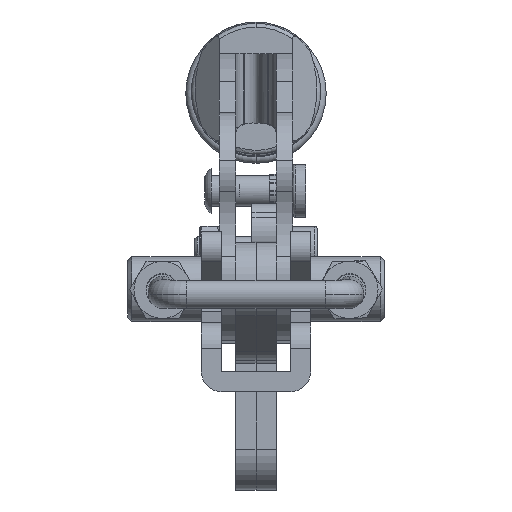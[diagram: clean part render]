
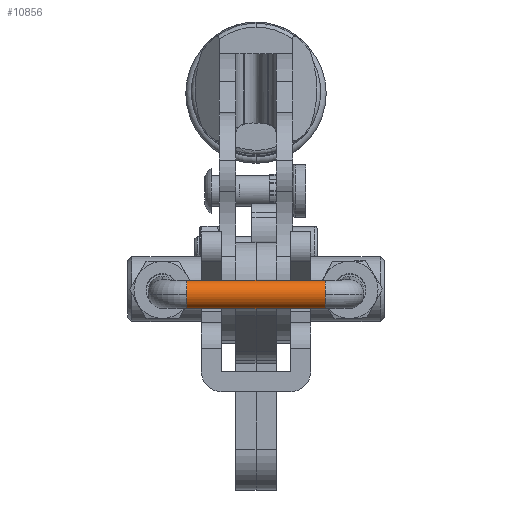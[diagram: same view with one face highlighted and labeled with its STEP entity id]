
A CAD part, left-side view. The second image highlights one B-rep face of the part: STEP entity #10856.
In plain terms, the highlighted cylindrical face has radius 1.75 mm (diameter 3.5 mm), a partial arc.
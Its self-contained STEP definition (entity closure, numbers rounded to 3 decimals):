
#559 = CARTESIAN_POINT ( 'NONE',  ( -118.68, 21.056, -15.175 ) ) ;
#909 = CARTESIAN_POINT ( 'NONE',  ( -116.93, 4.056, -16.909 ) ) ;
#1131 = CIRCLE ( 'NONE', #9718, 1.75 ) ;
#1533 = VERTEX_POINT ( 'NONE', #8459 ) ;
#1656 = DIRECTION ( 'NONE',  ( 0., -1., 0. ) ) ;
#1690 = EDGE_CURVE ( 'NONE', #22893, #17409, #1131, .T. ) ;
#3122 = EDGE_CURVE ( 'NONE', #21144, #20299, #26167, .T. ) ;
#3615 = AXIS2_PLACEMENT_3D ( 'NONE', #21261, #15621, #23800 ) ;
#3944 = LINE ( 'NONE', #20042, #22354 ) ;
#4895 = ORIENTED_EDGE ( 'NONE', *, *, #13177, .F. ) ;
#5325 = CIRCLE ( 'NONE', #3615, 1.75 ) ;
#5552 = CARTESIAN_POINT ( 'NONE',  ( -116.93, 21.056, -15.159 ) ) ;
#7040 = ORIENTED_EDGE ( 'NONE', *, *, #3122, .F. ) ;
#7655 = CARTESIAN_POINT ( 'NONE',  ( -116.93, 21.056, -16.909 ) ) ;
#7728 = DIRECTION ( 'NONE',  ( -1., 0., -0.009 ) ) ;
#7899 = AXIS2_PLACEMENT_3D ( 'NONE', #5552, #18160, #17766 ) ;
#8459 = CARTESIAN_POINT ( 'NONE',  ( -116.93, 21.056, -13.409 ) ) ;
#8497 = FACE_OUTER_BOUND ( 'NONE', #13818, .T. ) ;
#9718 = AXIS2_PLACEMENT_3D ( 'NONE', #25990, #11655, #11918 ) ;
#10009 = DIRECTION ( 'NONE',  ( 0., -1., 0. ) ) ;
#10856 = ADVANCED_FACE ( 'NONE', ( #8497 ), #18689, .T. ) ;
#11655 = DIRECTION ( 'NONE',  ( 0., -1., 0. ) ) ;
#11737 = ORIENTED_EDGE ( 'NONE', *, *, #13291, .T. ) ;
#11815 = LINE ( 'NONE', #13415, #18860 ) ;
#11918 = DIRECTION ( 'NONE',  ( 0., 0., -1. ) ) ;
#12200 = CIRCLE ( 'NONE', #7899, 1.75 ) ;
#12785 = DIRECTION ( 'NONE',  ( 0., 0., -1. ) ) ;
#13002 = VERTEX_POINT ( 'NONE', #20196 ) ;
#13177 = EDGE_CURVE ( 'NONE', #13002, #21144, #5325, .T. ) ;
#13291 = EDGE_CURVE ( 'NONE', #1533, #22893, #12200, .T. ) ;
#13415 = CARTESIAN_POINT ( 'NONE',  ( -116.93, 21.056, -13.409 ) ) ;
#13679 = ORIENTED_EDGE ( 'NONE', *, *, #25253, .T. ) ;
#13818 = EDGE_LOOP ( 'NONE', ( #17644, #11737, #26269, #13679, #7040, #4895 ) ) ;
#14338 = AXIS2_PLACEMENT_3D ( 'NONE', #24974, #16664, #12785 ) ;
#15621 = DIRECTION ( 'NONE',  ( 0., -1., 0. ) ) ;
#16108 = CARTESIAN_POINT ( 'NONE',  ( -118.68, 4.056, -15.175 ) ) ;
#16664 = DIRECTION ( 'NONE',  ( 0., -1., 0. ) ) ;
#17409 = VERTEX_POINT ( 'NONE', #7655 ) ;
#17644 = ORIENTED_EDGE ( 'NONE', *, *, #23337, .F. ) ;
#17766 = DIRECTION ( 'NONE',  ( 0., 0., -1. ) ) ;
#18160 = DIRECTION ( 'NONE',  ( 0., -1., 0. ) ) ;
#18689 = CYLINDRICAL_SURFACE ( 'NONE', #14338, 1.75 ) ;
#18860 = VECTOR ( 'NONE', #23866, 1000. ) ;
#20042 = CARTESIAN_POINT ( 'NONE',  ( -116.93, 21.056, -16.909 ) ) ;
#20196 = CARTESIAN_POINT ( 'NONE',  ( -116.93, 4.056, -13.409 ) ) ;
#20299 = VERTEX_POINT ( 'NONE', #909 ) ;
#21023 = AXIS2_PLACEMENT_3D ( 'NONE', #21933, #10009, #7728 ) ;
#21144 = VERTEX_POINT ( 'NONE', #16108 ) ;
#21261 = CARTESIAN_POINT ( 'NONE',  ( -116.93, 4.056, -15.159 ) ) ;
#21933 = CARTESIAN_POINT ( 'NONE',  ( -116.93, 4.056, -15.159 ) ) ;
#22354 = VECTOR ( 'NONE', #1656, 1000. ) ;
#22893 = VERTEX_POINT ( 'NONE', #559 ) ;
#23337 = EDGE_CURVE ( 'NONE', #1533, #13002, #11815, .T. ) ;
#23800 = DIRECTION ( 'NONE',  ( -1., 0., -0.009 ) ) ;
#23866 = DIRECTION ( 'NONE',  ( 0., -1., 0. ) ) ;
#24974 = CARTESIAN_POINT ( 'NONE',  ( -116.93, 21.056, -15.159 ) ) ;
#25253 = EDGE_CURVE ( 'NONE', #17409, #20299, #3944, .T. ) ;
#25990 = CARTESIAN_POINT ( 'NONE',  ( -116.93, 21.056, -15.159 ) ) ;
#26167 = CIRCLE ( 'NONE', #21023, 1.75 ) ;
#26269 = ORIENTED_EDGE ( 'NONE', *, *, #1690, .T. ) ;
